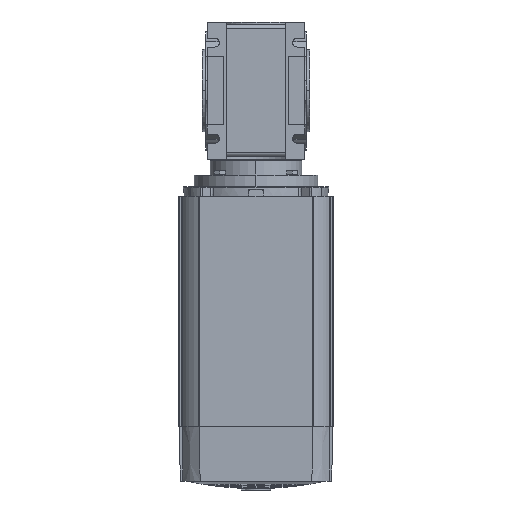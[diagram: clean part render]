
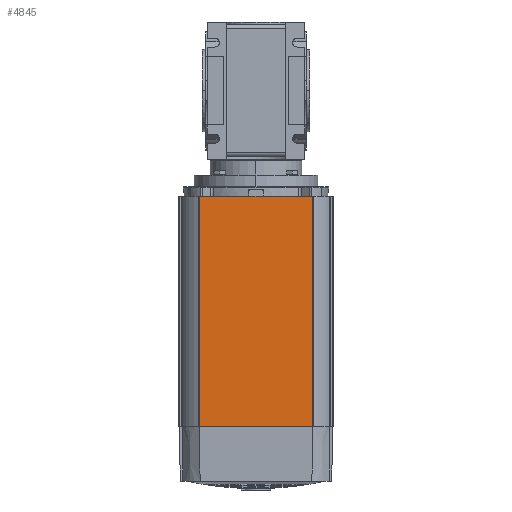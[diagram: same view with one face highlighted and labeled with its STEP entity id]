
A CAD part, front view. The second image highlights one B-rep face of the part: STEP entity #4845.
In plain terms, the highlighted planar face has unit normal (0, -1, 0).
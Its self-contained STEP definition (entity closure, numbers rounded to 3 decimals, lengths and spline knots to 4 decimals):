
#3625 = ORIENTED_EDGE ( 'NONE', *, *, #43575, .T. ) ;
#4576 = EDGE_CURVE ( 'NONE', #4871, #4870, #8688, .T. ) ;
#4744 = VERTEX_POINT ( 'NONE', #9090 ) ;
#4762 = VERTEX_POINT ( 'NONE', #9132 ) ;
#4791 = EDGE_CURVE ( 'NONE', #4762, #4744, #9202, .T. ) ;
#4826 = EDGE_LOOP ( 'NONE', ( #4827, #3625, #43570, #43569 ) ) ;
#4827 = ORIENTED_EDGE ( 'NONE', *, *, #4791, .T. ) ;
#4845 = ADVANCED_FACE ( 'NONE', ( #9240 ), #9239, .T. ) ;
#4870 = VERTEX_POINT ( 'NONE', #9312 ) ;
#4871 = VERTEX_POINT ( 'NONE', #9311 ) ;
#4950 = EDGE_CURVE ( 'NONE', #4762, #4870, #9495, .T. ) ;
#8684 = DIRECTION ( 'NONE',  ( 0., 0., 1. ) ) ;
#8685 = VECTOR ( 'NONE', #8684, 39.3701 ) ;
#8687 = CARTESIAN_POINT ( 'NONE',  ( 1.62, -2.21, -4.079 ) ) ;
#8688 = LINE ( 'NONE', #8687, #8685 ) ;
#9090 = CARTESIAN_POINT ( 'NONE',  ( -1.62, -2.21, -2.51 ) ) ;
#9132 = CARTESIAN_POINT ( 'NONE',  ( -1.62, -2.21, 4.104 ) ) ;
#9199 = DIRECTION ( 'NONE',  ( 0., 0., -1. ) ) ;
#9200 = VECTOR ( 'NONE', #9199, 39.3701 ) ;
#9201 = CARTESIAN_POINT ( 'NONE',  ( -1.62, -2.21, -4.079 ) ) ;
#9202 = LINE ( 'NONE', #9201, #9200 ) ;
#9238 = AXIS2_PLACEMENT_3D ( 'NONE', #9300, #9299, #9298 ) ;
#9239 = PLANE ( 'NONE',  #9238 ) ;
#9240 = FACE_OUTER_BOUND ( 'NONE', #4826, .T. ) ;
#9298 = DIRECTION ( 'NONE',  ( 0., 0., -1. ) ) ;
#9299 = DIRECTION ( 'NONE',  ( 0., -1., 0. ) ) ;
#9300 = CARTESIAN_POINT ( 'NONE',  ( -1.64, -2.21, -4.079 ) ) ;
#9311 = CARTESIAN_POINT ( 'NONE',  ( 1.62, -2.21, -2.51 ) ) ;
#9312 = CARTESIAN_POINT ( 'NONE',  ( 1.62, -2.21, 4.104 ) ) ;
#9492 = DIRECTION ( 'NONE',  ( 1., 0., 0. ) ) ;
#9493 = VECTOR ( 'NONE', #9492, 39.3701 ) ;
#9494 = CARTESIAN_POINT ( 'NONE',  ( -1.64, -2.21, 4.104 ) ) ;
#9495 = LINE ( 'NONE', #9494, #9493 ) ;
#35481 = DIRECTION ( 'NONE',  ( 1., 0., 0. ) ) ;
#35482 = VECTOR ( 'NONE', #35481, 39.3701 ) ;
#35483 = CARTESIAN_POINT ( 'NONE',  ( 2.21, -2.21, -2.51 ) ) ;
#35485 = LINE ( 'NONE', #35483, #35482 ) ;
#43569 = ORIENTED_EDGE ( 'NONE', *, *, #4950, .F. ) ;
#43570 = ORIENTED_EDGE ( 'NONE', *, *, #4576, .T. ) ;
#43575 = EDGE_CURVE ( 'NONE', #4744, #4871, #35485, .T. ) ;
